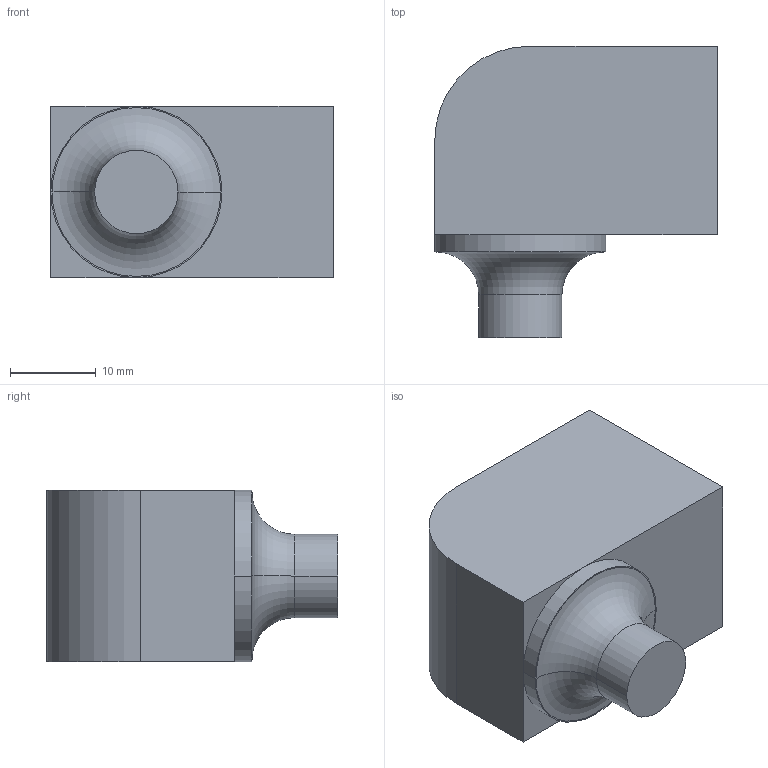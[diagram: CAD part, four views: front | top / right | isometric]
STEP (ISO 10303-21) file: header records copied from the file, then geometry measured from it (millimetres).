
FILE_DESCRIPTION (( 'STEP AP214' ), '1' );
FILE_NAME ('BR84-08.1150-90.STEP', '2020-06-23T08:40:36', ( '' ), ( '' ), 'SwSTEP 2.0', 'SolidWorks 2018', '' );
FILE_SCHEMA (( 'AUTOMOTIVE_DESIGN' ));
Length unit declared in the file: millimetre
Products named in the file (1): BR84-08.1150-90
Bounding box: 33 x 34 x 20 mm (x, y, z)
Volume: 15573.8 mm3; surface area: 3882.5 mm2
Topology: 1 solids, 1 shells, 17 faces, 36 edges, 22 vertices
Faces by surface type: plane 10, cylinder 5, torus 2
Entity records: 492 total; most frequent: DIRECTION 88, CARTESIAN_POINT 76, ORIENTED_EDGE 72, EDGE_CURVE 36, AXIS2_PLACEMENT_3D 34, VERTEX_POINT 22, LINE 20, VECTOR 20
